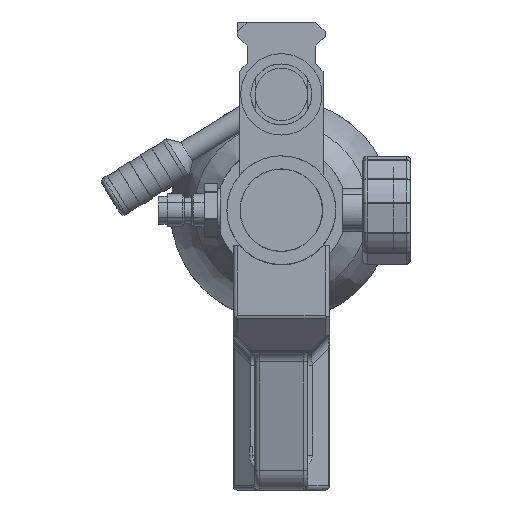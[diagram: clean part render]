
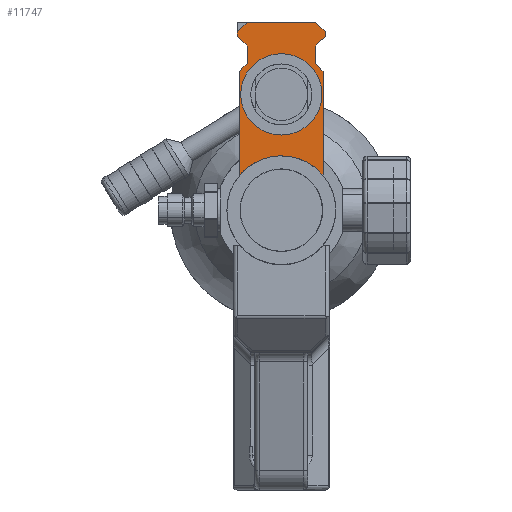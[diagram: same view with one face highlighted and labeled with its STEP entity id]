
A CAD part, left-side view. The second image highlights one B-rep face of the part: STEP entity #11747.
In plain terms, the highlighted planar face has unit normal (-1, 0, 0).
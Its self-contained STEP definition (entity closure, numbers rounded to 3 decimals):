
#353=LINE('',#16545,#1049);
#354=LINE('',#16547,#1050);
#400=LINE('',#16666,#1096);
#404=LINE('',#16674,#1100);
#429=LINE('',#16724,#1125);
#432=LINE('',#16730,#1128);
#435=LINE('',#16736,#1131);
#438=LINE('',#16742,#1134);
#442=LINE('',#16751,#1138);
#466=LINE('',#16797,#1162);
#468=LINE('',#16801,#1164);
#643=LINE('',#17222,#1339);
#644=LINE('',#17224,#1340);
#645=LINE('',#17226,#1341);
#646=LINE('',#17227,#1342);
#1049=VECTOR('',#13426,1000.);
#1050=VECTOR('',#13429,1000.);
#1096=VECTOR('',#13513,1000.);
#1100=VECTOR('',#13519,1000.);
#1125=VECTOR('',#13546,1000.);
#1128=VECTOR('',#13551,1000.);
#1131=VECTOR('',#13556,1000.);
#1134=VECTOR('',#13561,1000.);
#1138=VECTOR('',#13567,1000.);
#1162=VECTOR('',#13593,1000.);
#1164=VECTOR('',#13597,1000.);
#1339=VECTOR('',#13950,1000.);
#1340=VECTOR('',#13953,1000.);
#1341=VECTOR('',#13954,1000.);
#1342=VECTOR('',#13955,1000.);
#1814=PLANE('',#12387);
#2753=ORIENTED_EDGE('',*,*,#4670,.T.);
#2754=ORIENTED_EDGE('',*,*,#4798,.F.);
#2755=ORIENTED_EDGE('',*,*,#4987,.F.);
#2756=ORIENTED_EDGE('',*,*,#4988,.F.);
#2757=ORIENTED_EDGE('',*,*,#4677,.T.);
#2758=ORIENTED_EDGE('',*,*,#4643,.T.);
#2759=ORIENTED_EDGE('',*,*,#4676,.T.);
#2760=ORIENTED_EDGE('',*,*,#4986,.T.);
#2761=ORIENTED_EDGE('',*,*,#4989,.F.);
#2762=ORIENTED_EDGE('',*,*,#4730,.F.);
#2763=ORIENTED_EDGE('',*,*,#4734,.F.);
#2764=ORIENTED_EDGE('',*,*,#4759,.F.);
#2765=ORIENTED_EDGE('',*,*,#4762,.F.);
#2766=ORIENTED_EDGE('',*,*,#4765,.F.);
#2767=ORIENTED_EDGE('',*,*,#4768,.F.);
#2768=ORIENTED_EDGE('',*,*,#4772,.F.);
#2769=ORIENTED_EDGE('',*,*,#4796,.F.);
#4643=EDGE_CURVE('',#5927,#5926,#6775,.T.);
#4670=EDGE_CURVE('',#5949,#5949,#6779,.T.);
#4676=EDGE_CURVE('',#5926,#5954,#353,.T.);
#4677=EDGE_CURVE('',#5955,#5927,#354,.T.);
#4730=EDGE_CURVE('',#5997,#5998,#400,.T.);
#4734=EDGE_CURVE('',#6000,#5997,#404,.T.);
#4759=EDGE_CURVE('',#6024,#6000,#429,.T.);
#4762=EDGE_CURVE('',#6026,#6024,#432,.T.);
#4765=EDGE_CURVE('',#6028,#6026,#435,.T.);
#4768=EDGE_CURVE('',#6030,#6028,#438,.T.);
#4772=EDGE_CURVE('',#6034,#6030,#442,.T.);
#4796=EDGE_CURVE('',#6055,#6034,#466,.T.);
#4798=EDGE_CURVE('',#6056,#6055,#468,.T.);
#4986=EDGE_CURVE('',#5954,#6158,#643,.T.);
#4987=EDGE_CURVE('',#6159,#6056,#644,.T.);
#4988=EDGE_CURVE('',#5955,#6159,#645,.T.);
#4989=EDGE_CURVE('',#5998,#6158,#646,.T.);
#5926=VERTEX_POINT('',#16429);
#5927=VERTEX_POINT('',#16431);
#5949=VERTEX_POINT('',#16511);
#5954=VERTEX_POINT('',#16544);
#5955=VERTEX_POINT('',#16548);
#5997=VERTEX_POINT('',#16665);
#5998=VERTEX_POINT('',#16667);
#6000=VERTEX_POINT('',#16673);
#6024=VERTEX_POINT('',#16723);
#6026=VERTEX_POINT('',#16729);
#6028=VERTEX_POINT('',#16735);
#6030=VERTEX_POINT('',#16741);
#6034=VERTEX_POINT('',#16750);
#6055=VERTEX_POINT('',#16796);
#6056=VERTEX_POINT('',#16800);
#6158=VERTEX_POINT('',#17221);
#6159=VERTEX_POINT('',#17225);
#6775=CIRCLE('',#12249,12.5);
#6779=CIRCLE('',#12264,9.35);
#7371=EDGE_LOOP('',(#2753));
#7372=EDGE_LOOP('',(#2754,#2755,#2756,#2757,#2758,#2759,#2760,#2761,#2762,
#2763,#2764,#2765,#2766,#2767,#2768,#2769));
#8213=FACE_BOUND('',#7371,.T.);
#8214=FACE_BOUND('',#7372,.T.);
#11747=ADVANCED_FACE('',(#8213,#8214),#1814,.F.);
#12249=AXIS2_PLACEMENT_3D('',#16430,#13362,#13363);
#12264=AXIS2_PLACEMENT_3D('',#16510,#13413,#13414);
#12387=AXIS2_PLACEMENT_3D('',#17223,#13951,#13952);
#13362=DIRECTION('',(1.,0.,0.));
#13363=DIRECTION('',(0.,0.,-1.));
#13413=DIRECTION('',(1.,0.,0.));
#13414=DIRECTION('',(0.,0.,-1.));
#13426=DIRECTION('',(0.,-1.,0.));
#13429=DIRECTION('',(0.,-1.,0.));
#13513=DIRECTION('',(0.,0.,-1.));
#13519=DIRECTION('',(0.,0.707,-0.707));
#13546=DIRECTION('',(0.,0.,-1.));
#13551=DIRECTION('',(0.,-0.707,-0.707));
#13556=DIRECTION('',(0.,-1.,0.));
#13561=DIRECTION('',(0.,-0.707,0.707));
#13567=DIRECTION('',(0.,0.,1.));
#13593=DIRECTION('',(0.,0.707,0.707));
#13597=DIRECTION('',(0.,0.,1.));
#13950=DIRECTION('',(0.,0.,1.));
#13951=DIRECTION('',(1.,0.,0.));
#13952=DIRECTION('',(0.,0.,-1.));
#13953=DIRECTION('',(0.,-0.707,0.707));
#13954=DIRECTION('',(0.,0.,1.));
#13955=DIRECTION('',(0.,-0.707,-0.707));
#16429=CARTESIAN_POINT('',(-133.65,-9.352,8.294));
#16430=CARTESIAN_POINT('',(-133.65,0.,0.));
#16431=CARTESIAN_POINT('',(-133.65,9.352,8.294));
#16510=CARTESIAN_POINT('',(-133.65,0.,26.641));
#16511=CARTESIAN_POINT('',(-133.65,0.,17.291));
#16544=CARTESIAN_POINT('',(-133.65,-9.6,8.294));
#16545=CARTESIAN_POINT('',(-133.65,-9.352,8.294));
#16547=CARTESIAN_POINT('',(-133.65,10.8,8.294));
#16548=CARTESIAN_POINT('',(-133.65,9.6,8.294));
#16665=CARTESIAN_POINT('',(-133.65,-7.835,37.756));
#16666=CARTESIAN_POINT('',(-133.65,-7.835,37.756));
#16667=CARTESIAN_POINT('',(-133.65,-7.835,33.731));
#16673=CARTESIAN_POINT('',(-133.65,-10.1,40.021));
#16674=CARTESIAN_POINT('',(-133.65,-10.1,40.021));
#16723=CARTESIAN_POINT('',(-133.65,-10.1,41.021));
#16724=CARTESIAN_POINT('',(-133.65,-10.1,40.521));
#16729=CARTESIAN_POINT('',(-133.65,-7.835,43.286));
#16730=CARTESIAN_POINT('',(-133.65,-7.835,43.286));
#16735=CARTESIAN_POINT('',(-133.65,7.835,43.286));
#16736=CARTESIAN_POINT('',(-133.65,10.8,43.286));
#16741=CARTESIAN_POINT('',(-133.65,10.1,41.021));
#16742=CARTESIAN_POINT('',(-133.65,7.835,43.286));
#16750=CARTESIAN_POINT('',(-133.65,10.1,40.021));
#16751=CARTESIAN_POINT('',(-133.65,10.1,40.521));
#16796=CARTESIAN_POINT('',(-133.65,7.835,37.756));
#16797=CARTESIAN_POINT('',(-133.65,10.1,40.021));
#16800=CARTESIAN_POINT('',(-133.65,7.835,33.731));
#16801=CARTESIAN_POINT('',(-133.65,7.835,37.756));
#17221=CARTESIAN_POINT('',(-133.65,-9.6,31.966));
#17222=CARTESIAN_POINT('',(-133.65,-9.6,-27.248));
#17223=CARTESIAN_POINT('',(-133.65,41.983,-27.248));
#17224=CARTESIAN_POINT('',(-133.65,7.6,33.966));
#17225=CARTESIAN_POINT('',(-133.65,9.6,31.966));
#17226=CARTESIAN_POINT('',(-133.65,9.6,23.141));
#17227=CARTESIAN_POINT('',(-133.65,-9.6,31.966));
